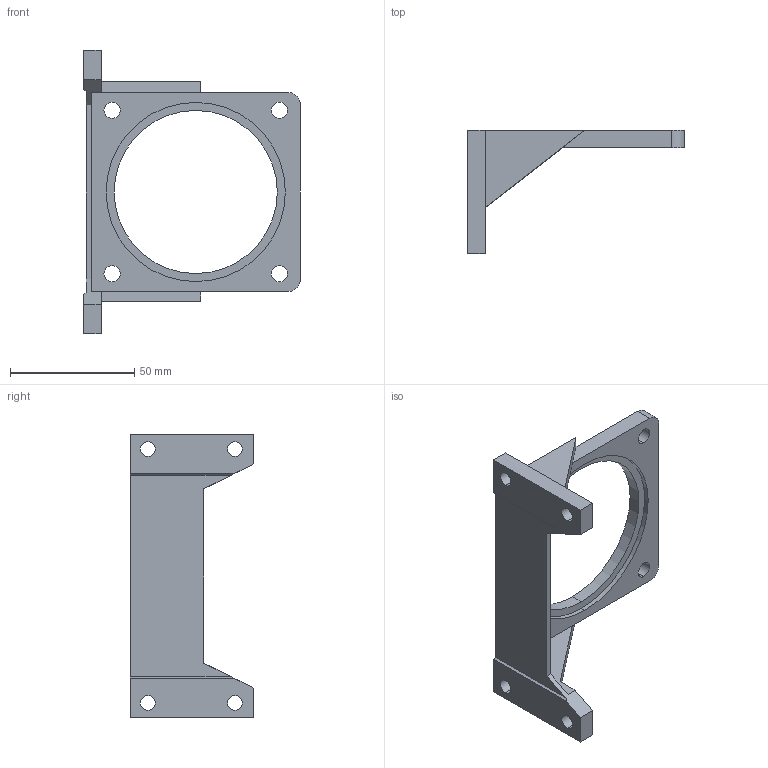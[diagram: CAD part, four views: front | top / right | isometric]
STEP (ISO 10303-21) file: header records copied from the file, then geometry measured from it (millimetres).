
FILE_DESCRIPTION (( 'STEP AP203' ), '1' );
FILE_NAME ('M4假蚾盓殤.STEP', '2018-12-10T06:11:31', ( 'china' ), ( 'china' ), 'SwSTEP 2.0', 'SolidWorks 2014', '' );
FILE_SCHEMA (( 'CONFIG_CONTROL_DESIGN' ));
Length unit declared in the file: millimetre
Products named in the file (1): M4假蚾盓殤
Bounding box: 87 x 49.5 x 114 mm (x, y, z)
Volume: 41713.9 mm3; surface area: 21843.7 mm2
Topology: 1 solids, 1 shells, 49 faces, 136 edges, 90 vertices
Faces by surface type: plane 27, cylinder 22
Entity records: 1691 total; most frequent: DIRECTION 280, CARTESIAN_POINT 276, ORIENTED_EDGE 272, EDGE_CURVE 136, AXIS2_PLACEMENT_3D 94, LINE 92, VECTOR 92, VERTEX_POINT 90
